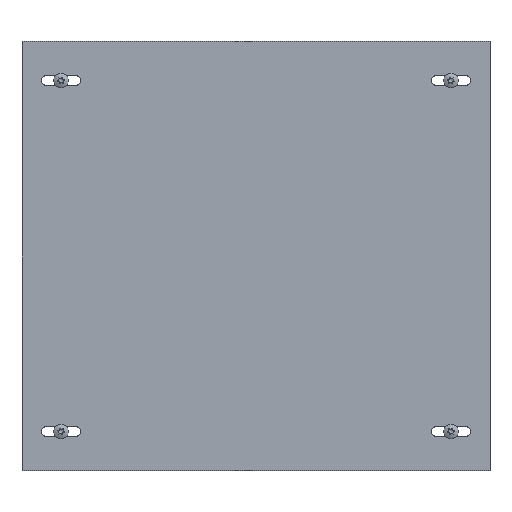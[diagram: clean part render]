
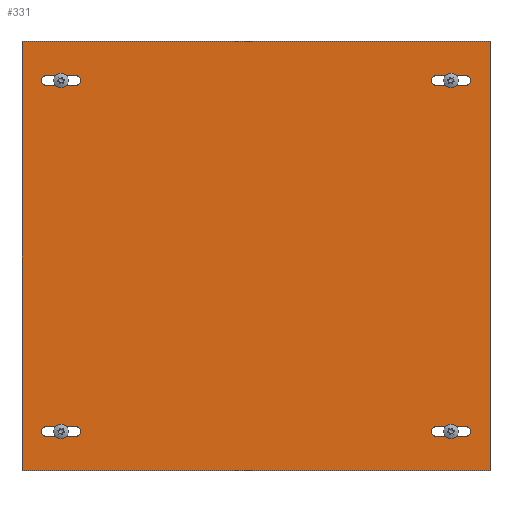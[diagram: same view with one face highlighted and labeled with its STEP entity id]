
A CAD part, top view. The second image highlights one B-rep face of the part: STEP entity #331.
In plain terms, the highlighted planar face has unit normal (0, 0, 1).
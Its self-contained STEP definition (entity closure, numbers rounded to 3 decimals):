
#55 = EDGE_CURVE('',#56,#58,#60,.T.);
#56 = VERTEX_POINT('',#57);
#57 = CARTESIAN_POINT('',(-150.,137.5,0.));
#58 = VERTEX_POINT('',#59);
#59 = CARTESIAN_POINT('',(-150.,-137.5,0.));
#60 = LINE('',#61,#62);
#61 = CARTESIAN_POINT('',(-150.,-137.5,0.));
#62 = VECTOR('',#63,1.);
#63 = DIRECTION('',(-0.,-1.,-0.));
#95 = EDGE_CURVE('',#96,#56,#98,.T.);
#96 = VERTEX_POINT('',#97);
#97 = CARTESIAN_POINT('',(150.,137.5,0.));
#98 = LINE('',#99,#100);
#99 = CARTESIAN_POINT('',(150.,137.5,0.));
#100 = VECTOR('',#101,1.);
#101 = DIRECTION('',(-1.,0.,0.));
#126 = EDGE_CURVE('',#127,#96,#129,.T.);
#127 = VERTEX_POINT('',#128);
#128 = CARTESIAN_POINT('',(150.,-137.5,0.));
#129 = LINE('',#130,#131);
#130 = CARTESIAN_POINT('',(150.,-137.5,0.));
#131 = VECTOR('',#132,1.);
#132 = DIRECTION('',(0.,1.,0.));
#157 = EDGE_CURVE('',#58,#127,#158,.T.);
#158 = LINE('',#159,#160);
#159 = CARTESIAN_POINT('',(150.,-137.5,0.));
#160 = VECTOR('',#161,1.);
#161 = DIRECTION('',(1.,0.,-0.));
#331 = ADVANCED_FACE('',(#332,#368,#404,#440,#476),#482,.T.);
#332 = FACE_BOUND('',#333,.T.);
#333 = EDGE_LOOP('',(#334,#345,#353,#362));
#334 = ORIENTED_EDGE('',*,*,#335,.F.);
#335 = EDGE_CURVE('',#336,#338,#340,.T.);
#336 = VERTEX_POINT('',#337);
#337 = CARTESIAN_POINT('',(-115.75,-115.75,0.));
#338 = VERTEX_POINT('',#339);
#339 = CARTESIAN_POINT('',(-115.75,-109.25,0.));
#340 = CIRCLE('',#341,3.25);
#341 = AXIS2_PLACEMENT_3D('',#342,#343,#344);
#342 = CARTESIAN_POINT('',(-115.75,-112.5,0.));
#343 = DIRECTION('',(0.,0.,1.));
#344 = DIRECTION('',(1.,0.,-0.));
#345 = ORIENTED_EDGE('',*,*,#346,.F.);
#346 = EDGE_CURVE('',#347,#336,#349,.T.);
#347 = VERTEX_POINT('',#348);
#348 = CARTESIAN_POINT('',(-134.25,-115.75,0.));
#349 = LINE('',#350,#351);
#350 = CARTESIAN_POINT('',(-115.75,-115.75,0.));
#351 = VECTOR('',#352,1.);
#352 = DIRECTION('',(1.,-0.,-0.));
#353 = ORIENTED_EDGE('',*,*,#354,.F.);
#354 = EDGE_CURVE('',#355,#347,#357,.T.);
#355 = VERTEX_POINT('',#356);
#356 = CARTESIAN_POINT('',(-134.25,-109.25,0.));
#357 = CIRCLE('',#358,3.25);
#358 = AXIS2_PLACEMENT_3D('',#359,#360,#361);
#359 = CARTESIAN_POINT('',(-134.25,-112.5,0.));
#360 = DIRECTION('',(0.,0.,1.));
#361 = DIRECTION('',(1.,0.,-0.));
#362 = ORIENTED_EDGE('',*,*,#363,.F.);
#363 = EDGE_CURVE('',#338,#355,#364,.T.);
#364 = LINE('',#365,#366);
#365 = CARTESIAN_POINT('',(-115.75,-109.25,0.));
#366 = VECTOR('',#367,1.);
#367 = DIRECTION('',(-1.,0.,0.));
#368 = FACE_BOUND('',#369,.T.);
#369 = EDGE_LOOP('',(#370,#381,#389,#398));
#370 = ORIENTED_EDGE('',*,*,#371,.F.);
#371 = EDGE_CURVE('',#372,#374,#376,.T.);
#372 = VERTEX_POINT('',#373);
#373 = CARTESIAN_POINT('',(-115.75,109.25,0.));
#374 = VERTEX_POINT('',#375);
#375 = CARTESIAN_POINT('',(-115.75,115.75,0.));
#376 = CIRCLE('',#377,3.25);
#377 = AXIS2_PLACEMENT_3D('',#378,#379,#380);
#378 = CARTESIAN_POINT('',(-115.75,112.5,0.));
#379 = DIRECTION('',(0.,0.,1.));
#380 = DIRECTION('',(-1.,0.,0.));
#381 = ORIENTED_EDGE('',*,*,#382,.F.);
#382 = EDGE_CURVE('',#383,#372,#385,.T.);
#383 = VERTEX_POINT('',#384);
#384 = CARTESIAN_POINT('',(-134.25,109.25,0.));
#385 = LINE('',#386,#387);
#386 = CARTESIAN_POINT('',(-115.75,109.25,0.));
#387 = VECTOR('',#388,1.);
#388 = DIRECTION('',(1.,0.,-0.));
#389 = ORIENTED_EDGE('',*,*,#390,.F.);
#390 = EDGE_CURVE('',#391,#383,#393,.T.);
#391 = VERTEX_POINT('',#392);
#392 = CARTESIAN_POINT('',(-134.25,115.75,0.));
#393 = CIRCLE('',#394,3.25);
#394 = AXIS2_PLACEMENT_3D('',#395,#396,#397);
#395 = CARTESIAN_POINT('',(-134.25,112.5,0.));
#396 = DIRECTION('',(0.,0.,1.));
#397 = DIRECTION('',(-1.,0.,0.));
#398 = ORIENTED_EDGE('',*,*,#399,.F.);
#399 = EDGE_CURVE('',#374,#391,#400,.T.);
#400 = LINE('',#401,#402);
#401 = CARTESIAN_POINT('',(-115.75,115.75,0.));
#402 = VECTOR('',#403,1.);
#403 = DIRECTION('',(-1.,0.,0.));
#404 = FACE_BOUND('',#405,.T.);
#405 = EDGE_LOOP('',(#406,#417,#425,#434));
#406 = ORIENTED_EDGE('',*,*,#407,.F.);
#407 = EDGE_CURVE('',#408,#410,#412,.T.);
#408 = VERTEX_POINT('',#409);
#409 = CARTESIAN_POINT('',(115.75,115.75,0.));
#410 = VERTEX_POINT('',#411);
#411 = CARTESIAN_POINT('',(115.75,109.25,0.));
#412 = CIRCLE('',#413,3.25);
#413 = AXIS2_PLACEMENT_3D('',#414,#415,#416);
#414 = CARTESIAN_POINT('',(115.75,112.5,0.));
#415 = DIRECTION('',(0.,0.,1.));
#416 = DIRECTION('',(1.,0.,-0.));
#417 = ORIENTED_EDGE('',*,*,#418,.F.);
#418 = EDGE_CURVE('',#419,#408,#421,.T.);
#419 = VERTEX_POINT('',#420);
#420 = CARTESIAN_POINT('',(134.25,115.75,0.));
#421 = LINE('',#422,#423);
#422 = CARTESIAN_POINT('',(115.75,115.75,0.));
#423 = VECTOR('',#424,1.);
#424 = DIRECTION('',(-1.,-0.,-0.));
#425 = ORIENTED_EDGE('',*,*,#426,.F.);
#426 = EDGE_CURVE('',#427,#419,#429,.T.);
#427 = VERTEX_POINT('',#428);
#428 = CARTESIAN_POINT('',(134.25,109.25,0.));
#429 = CIRCLE('',#430,3.25);
#430 = AXIS2_PLACEMENT_3D('',#431,#432,#433);
#431 = CARTESIAN_POINT('',(134.25,112.5,0.));
#432 = DIRECTION('',(0.,0.,1.));
#433 = DIRECTION('',(1.,0.,-0.));
#434 = ORIENTED_EDGE('',*,*,#435,.F.);
#435 = EDGE_CURVE('',#410,#427,#436,.T.);
#436 = LINE('',#437,#438);
#437 = CARTESIAN_POINT('',(115.75,109.25,0.));
#438 = VECTOR('',#439,1.);
#439 = DIRECTION('',(1.,0.,0.));
#440 = FACE_BOUND('',#441,.T.);
#441 = EDGE_LOOP('',(#442,#453,#461,#470));
#442 = ORIENTED_EDGE('',*,*,#443,.F.);
#443 = EDGE_CURVE('',#444,#446,#448,.T.);
#444 = VERTEX_POINT('',#445);
#445 = CARTESIAN_POINT('',(115.75,-109.25,0.));
#446 = VERTEX_POINT('',#447);
#447 = CARTESIAN_POINT('',(115.75,-115.75,0.));
#448 = CIRCLE('',#449,3.25);
#449 = AXIS2_PLACEMENT_3D('',#450,#451,#452);
#450 = CARTESIAN_POINT('',(115.75,-112.5,0.));
#451 = DIRECTION('',(0.,0.,1.));
#452 = DIRECTION('',(-1.,0.,0.));
#453 = ORIENTED_EDGE('',*,*,#454,.F.);
#454 = EDGE_CURVE('',#455,#444,#457,.T.);
#455 = VERTEX_POINT('',#456);
#456 = CARTESIAN_POINT('',(134.25,-109.25,0.));
#457 = LINE('',#458,#459);
#458 = CARTESIAN_POINT('',(115.75,-109.25,0.));
#459 = VECTOR('',#460,1.);
#460 = DIRECTION('',(-1.,-0.,-0.));
#461 = ORIENTED_EDGE('',*,*,#462,.F.);
#462 = EDGE_CURVE('',#463,#455,#465,.T.);
#463 = VERTEX_POINT('',#464);
#464 = CARTESIAN_POINT('',(134.25,-115.75,0.));
#465 = CIRCLE('',#466,3.25);
#466 = AXIS2_PLACEMENT_3D('',#467,#468,#469);
#467 = CARTESIAN_POINT('',(134.25,-112.5,0.));
#468 = DIRECTION('',(0.,0.,1.));
#469 = DIRECTION('',(-1.,0.,0.));
#470 = ORIENTED_EDGE('',*,*,#471,.F.);
#471 = EDGE_CURVE('',#446,#463,#472,.T.);
#472 = LINE('',#473,#474);
#473 = CARTESIAN_POINT('',(115.75,-115.75,0.));
#474 = VECTOR('',#475,1.);
#475 = DIRECTION('',(1.,0.,0.));
#476 = FACE_BOUND('',#477,.T.);
#477 = EDGE_LOOP('',(#478,#479,#480,#481));
#478 = ORIENTED_EDGE('',*,*,#55,.T.);
#479 = ORIENTED_EDGE('',*,*,#157,.T.);
#480 = ORIENTED_EDGE('',*,*,#126,.T.);
#481 = ORIENTED_EDGE('',*,*,#95,.T.);
#482 = PLANE('',#483);
#483 = AXIS2_PLACEMENT_3D('',#484,#485,#486);
#484 = CARTESIAN_POINT('',(0.,0.,0.));
#485 = DIRECTION('',(0.,-0.,1.));
#486 = DIRECTION('',(1.,0.,0.));
